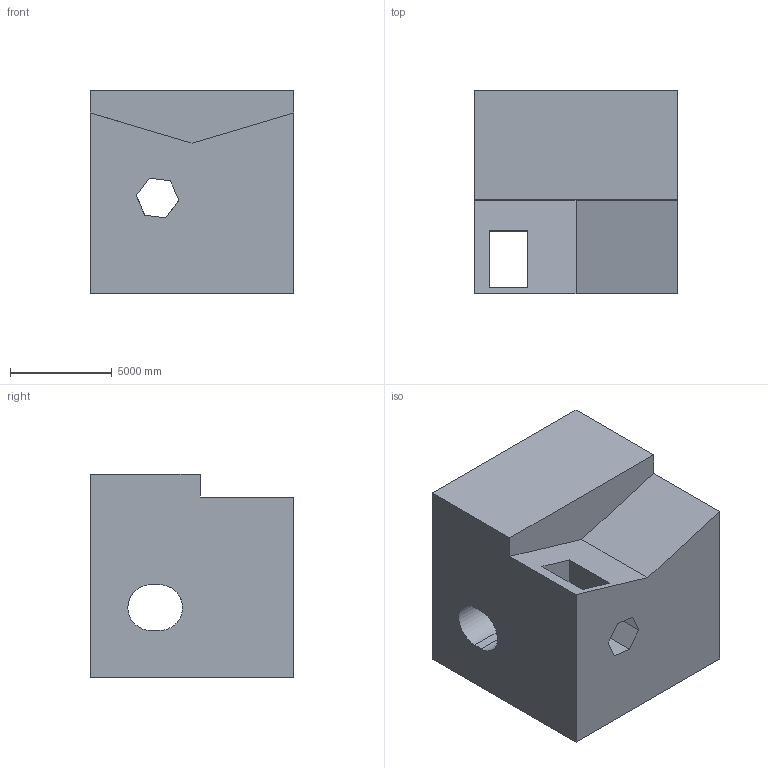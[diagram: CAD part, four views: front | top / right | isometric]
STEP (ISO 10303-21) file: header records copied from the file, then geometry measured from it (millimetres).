
FILE_DESCRIPTION (( 'STEP AP203' ), '1' );
FILE_NAME ('157.STEP', '2022-09-06T13:27:12', ( 'user' ), ( '' ), 'SwSTEP 2.0', 'SolidWorks 2021', '' );
FILE_SCHEMA (( 'CONFIG_CONTROL_DESIGN' ));
Length unit declared in the file: centimetre
Products named in the file (1): 157
Bounding box: 10000 x 10000 x 10000 mm (x, y, z)
Volume: 754637590357.4 mm3; surface area: 774562607.8 mm2
Topology: 1 solids, 1 shells, 35 faces, 105 edges, 70 vertices
Faces by surface type: plane 29, cylinder 6
Entity records: 1268 total; most frequent: CARTESIAN_POINT 229, ORIENTED_EDGE 210, DIRECTION 183, EDGE_CURVE 105, VECTOR 87, LINE 87, VERTEX_POINT 70, AXIS2_PLACEMENT_3D 48
